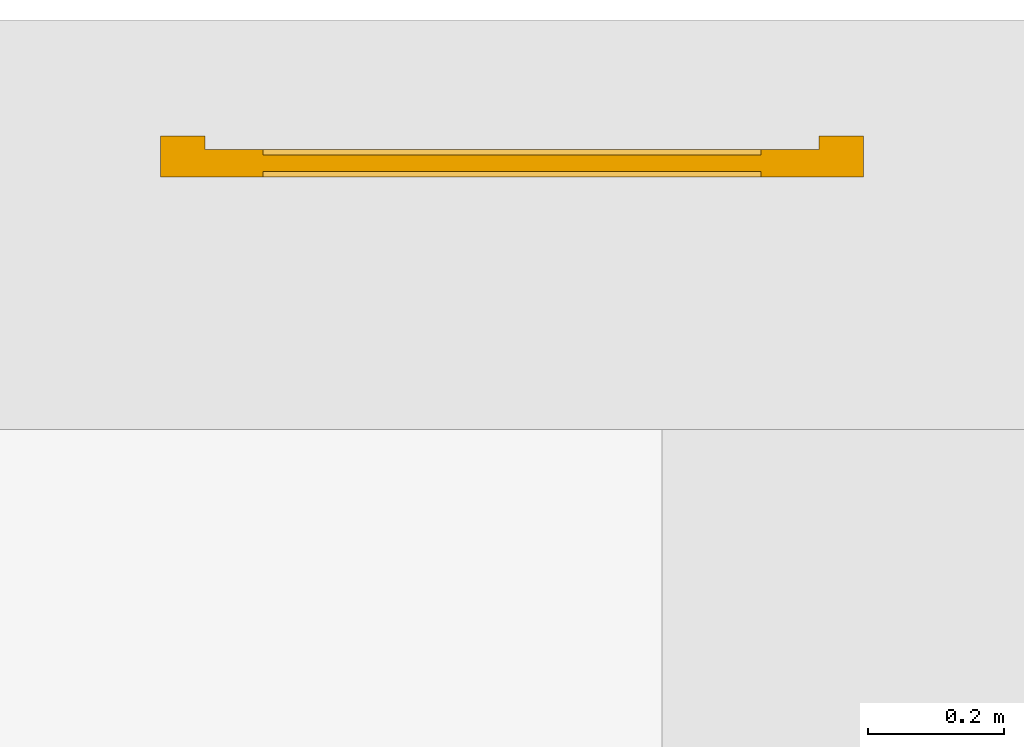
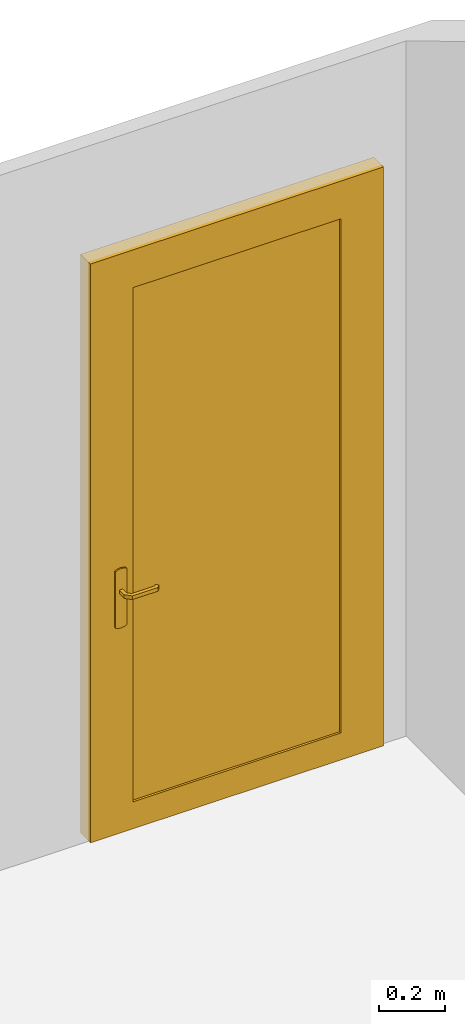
# One storey, part 3 of 6: 1 door.
"""IFC2X3 building model written with IfcOpenShell, lengths in millimetres."""

from ifc_helpers import new_model, entity, si_unit, converted_unit, direction, origin, origin_with_axes, place, context, project, spatial, faceted_brep, element, save


model = new_model("IFC2X3")

# Units and contexts
model_context = context("Model", 3, precision=1e-05, world=origin(), true_north=direction((0.0, 1.0, 0.0)))
ifc_project = project(units=[si_unit("LENGTHUNIT", "METRE", prefix="MILLI"), si_unit("AREAUNIT", "SQUARE_METRE"), si_unit("VOLUMEUNIT", "CUBIC_METRE"), converted_unit("PLANEANGLEUNIT", "DEGREE", entity("IfcPlaneAngleMeasure", 0.01745), si_unit("PLANEANGLEUNIT", "RADIAN"), dimensions=[0, 0, 0, 0, 0, 0, 0]), si_unit("SOLIDANGLEUNIT", "STERADIAN"), si_unit("MASSUNIT", "GRAM"), si_unit("TIMEUNIT", "SECOND"), si_unit("THERMODYNAMICTEMPERATUREUNIT", "DEGREE_CELSIUS"), si_unit("LUMINOUSINTENSITYUNIT", "LUMEN")], contexts=[model_context])

# Site, building, storey
site_placement = place(None, origin_with_axes())
site = spatial("IfcSite", under=ifc_project, at=site_placement, Name="Default Site", CompositionType="ELEMENT")
building_placement = place(site_placement, origin_with_axes())
building = spatial("IfcBuilding", under=site, at=building_placement, Name="Default Building", CompositionType="ELEMENT")
storey_placement = place(building_placement, origin_with_axes())
storey = spatial("IfcBuildingStorey", under=building, at=storey_placement, Name="soubassement", CompositionType="ELEMENT", Elevation=0.0)

# Door
door_placement = place(storey_placement, origin_with_axes())
element("IfcDoor", 1, at=door_placement, inside=storey, Name="IfcDoor - FR_PVC Panneau Plein:93 x 210 - (90)", context=model_context, shape_type="Brep", body=[
    faceted_brep([(2559.935072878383, -14171.58332305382, 2010.000002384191), (1829.935053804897, -14163.58332337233, 2010.000002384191), (2559.935072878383, -14163.58332337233, 2010.000002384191), (1829.935053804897, -14171.58332305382, 2010.000002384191), (2559.935072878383, -14171.58332305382, 99.99997615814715), (2559.935072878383, -14163.58332337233, 99.99997615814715), (1829.935053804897, -14171.58332305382, 99.99997615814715), (1829.935053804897, -14163.58332337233, 99.99997615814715), (1829.935053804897, -14195.58332302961, 2010.000002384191), (2559.935072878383, -14203.58332247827, 2010.000002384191), (1829.935053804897, -14203.58332247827, 2010.000002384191), (2559.935072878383, -14195.58332302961, 2010.000002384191), (1829.935053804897, -14195.58332302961, 99.99997615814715), (1829.935053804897, -14203.58332247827, 99.99997615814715), (2559.935072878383, -14195.58332302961, 99.99997615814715), (2559.935072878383, -14203.58332247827, 99.99997615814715), (1729.935059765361, -14203.58332247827, 2099.999976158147), (2659.935066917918, -14163.58332337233, 2099.999976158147), (1729.935059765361, -14163.58332337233, 2099.999976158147), (2659.935066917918, -14203.58332247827, 2099.999976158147), (2659.935066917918, -14163.58332337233, -4.768371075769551e-05), (2659.935066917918, -14203.58332247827, -4.768371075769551e-05), (1729.935059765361, -14163.58332337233, -4.768371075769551e-05), (1729.935059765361, -14203.58332247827, -4.768371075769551e-05), (1744.935075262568, -14143.58332381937, 2084.999990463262), (2644.935051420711, -14163.58332337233, 2084.999990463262), (1744.935075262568, -14163.58332337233, 2084.999990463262), (2644.935051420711, -14143.58332381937, 2084.999990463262), (1679.935077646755, -14143.58332381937, 2150.000047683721), (2709.935049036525, -14203.58332247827, 2150.000047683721), (2709.935049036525, -14143.58332381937, 2150.000047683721), (1679.935077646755, -14203.58332247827, 2150.000047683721), (2644.935051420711, -14163.58332337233, -4.768371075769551e-05), (2644.935051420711, -14143.58332381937, -4.768371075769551e-05), (2709.935049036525, -14143.58332381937, -4.768371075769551e-05), (2709.935049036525, -14203.58332247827, -4.768371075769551e-05), (1679.935077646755, -14203.58332247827, -4.768371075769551e-05), (1744.935075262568, -14163.58332337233, -4.768371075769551e-05), (1744.935075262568, -14143.58332381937, -4.768371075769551e-05), (1679.935077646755, -14143.58332381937, -4.768371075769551e-05), (1764.93506553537, -14208.58332344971, 770.000003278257), (1764.93506553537, -14203.58332263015, 979.9999967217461), (1764.93506553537, -14203.58332263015, 770.000003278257), (1764.93506553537, -14208.58332344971, 979.9999967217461), (1774.582300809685, -14203.58332263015, 983.9960187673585), (1774.582300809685, -14208.58332344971, 983.9960187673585), (1784.935065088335, -14203.58332263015, 985.3589832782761), (1784.935065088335, -14208.58332344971, 985.3589832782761), (1795.287825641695, -14208.58332344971, 983.9960187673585), (1795.287825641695, -14203.58332263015, 983.9960187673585), (1804.935062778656, -14203.58332263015, 979.9999967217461), (1804.935062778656, -14208.58332344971, 979.9999967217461), (1804.935062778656, -14203.58332263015, 770.000003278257), (1804.935062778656, -14208.58332344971, 770.000003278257), (1795.287825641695, -14203.58332263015, 766.0039812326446), (1795.287825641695, -14208.58332344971, 766.0039812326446), (1784.935065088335, -14203.58332263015, 764.6410167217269), (1784.935065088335, -14208.58332344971, 764.6410167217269), (1774.582300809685, -14208.58332344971, 766.0039812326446), (1774.582300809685, -14203.58332263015, 766.0039812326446), (1804.935062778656, -14163.58332352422, 979.9999967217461), (1804.935062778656, -14158.58332270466, 770.000003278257), (1804.935062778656, -14158.58332270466, 979.9999967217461), (1804.935062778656, -14163.58332352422, 770.000003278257), (1795.287825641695, -14158.58332270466, 766.0039812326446), (1795.287825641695, -14163.58332352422, 766.0039812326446), (1784.935065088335, -14158.58332270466, 764.6410167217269), (1784.935065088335, -14163.58332352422, 764.6410167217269), (1774.582300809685, -14163.58332352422, 766.0039812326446), (1774.582300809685, -14158.58332270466, 766.0039812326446), (1764.93506553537, -14158.58332270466, 770.000003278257), (1764.93506553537, -14163.58332352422, 770.000003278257), (1764.93506553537, -14158.58332270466, 979.9999967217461), (1764.93506553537, -14163.58332352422, 979.9999967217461), (1774.582300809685, -14158.58332270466, 983.9960187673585), (1774.582300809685, -14163.58332352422, 983.9960187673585), (1784.935065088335, -14158.58332270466, 985.3589832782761), (1784.935065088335, -14163.58332352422, 985.3589832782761), (1795.287825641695, -14163.58332352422, 983.9960187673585), (1795.287825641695, -14158.58332270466, 983.9960187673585), (1887.43898692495, -14254.61148487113, 907.0000015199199), (1896.267410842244, -14245.78305722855, 892.9999992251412), (1896.267410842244, -14245.78305722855, 907.0000015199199), (1887.43898692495, -14254.61148487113, 892.9999992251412), (1893.45687302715, -14242.97251941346, 892.219558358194), (1885.792609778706, -14250.63677893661, 892.219558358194), (1887.782130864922, -14237.29777352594, 892.9999992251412), (1884.114798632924, -14246.5861888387, 892.219558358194), (1882.46842148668, -14242.61148290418, 892.9999992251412), (1890.592668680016, -14240.10831506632, 892.219558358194), (1887.782130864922, -14237.29777352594, 907.0000015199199), (1882.46842148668, -14242.61148290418, 907.0000015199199), (1890.592668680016, -14240.10831506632, 907.7804423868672), (1884.114798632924, -14246.5861888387, 907.7804423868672), (1885.792609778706, -14250.63677893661, 907.7804423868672), (1893.45687302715, -14242.97251941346, 907.7804423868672), (1797.31227504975, -14254.61148487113, 892.9999992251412), (1837.242760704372, -14254.61148487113, 907.0000015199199), (1797.31227504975, -14254.61148487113, 907.0000015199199), (1847.508499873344, -14254.61148487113, 892.9999992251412), (1842.375629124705, -14248.76612441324, 892.1218849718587), (1800.636461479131, -14246.5861888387, 892.219558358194), (1798.958648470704, -14250.63677893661, 892.219558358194), (1842.375627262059, -14242.61148290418, 892.9999992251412), (1802.28283676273, -14242.61148290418, 892.9999992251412), (1802.28283676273, -14242.61148290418, 907.0000015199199), (1842.375629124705, -14248.76612441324, 907.8781157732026), (1842.375629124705, -14242.61148290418, 907.0000015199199), (1800.636461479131, -14246.5861888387, 907.7804423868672), (1798.958648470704, -14250.63677893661, 907.7804423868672), (1778.935064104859, -14236.23427392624, 907.0000015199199), (1778.935064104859, -14236.23427392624, 892.9999992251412), (1782.909766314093, -14234.58790050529, 892.219558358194), (1786.960360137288, -14232.91008563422, 892.219558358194), (1790.935062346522, -14231.26371221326, 892.9999992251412), (1790.935062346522, -14231.26371221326, 907.0000015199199), (1786.960360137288, -14232.91008563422, 907.7804423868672), (1782.909766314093, -14234.58790050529, 907.7804423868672), (1778.935064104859, -14208.58332344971, 907.0000015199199), (1778.935064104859, -14208.58332344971, 892.9999992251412), (1782.909766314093, -14208.58332344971, 892.219558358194), (1786.960360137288, -14208.58332344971, 892.219558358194), (1790.935062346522, -14208.58332344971, 892.9999992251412), (1790.935062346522, -14208.58332344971, 907.0000015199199), (1786.960360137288, -14208.58332344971, 907.7804423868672), (1782.909766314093, -14208.58332344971, 907.7804423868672), (1890.619811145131, -14127.11600603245, 892.219558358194), (1882.495563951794, -14124.61283819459, 892.9999992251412), (1884.141941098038, -14120.63813226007, 892.219558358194), (1887.809273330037, -14129.92654757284, 892.9999992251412), (1896.294553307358, -14121.44126387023, 892.9999992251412), (1885.819752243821, -14116.58754216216, 892.219558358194), (1887.466129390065, -14112.61283622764, 892.9999992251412), (1893.484015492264, -14124.25180168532, 892.219558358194), (1896.294553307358, -14121.44126387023, 907.0000015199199), (1887.466129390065, -14112.61283622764, 907.0000015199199), (1893.484015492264, -14124.25180168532, 907.7804423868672), (1885.819752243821, -14116.58754216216, 907.7804423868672), (1887.809273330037, -14129.92654757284, 907.0000015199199), (1884.141941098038, -14120.63813226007, 907.7804423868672), (1882.495563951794, -14124.61283819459, 907.0000015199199), (1890.619811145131, -14127.11600603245, 907.7804423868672), (1842.457955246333, -14118.45839785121, 892.1218831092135), (1842.45794313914, -14124.61283819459, 892.9999992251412), (1802.420344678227, -14124.61283819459, 892.9999992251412), (1800.773969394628, -14120.63813226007, 892.219558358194), (1799.0961563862, -14116.58754216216, 892.219558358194), (1837.380268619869, -14112.61283622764, 892.9999992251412), (1797.449782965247, -14112.61283622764, 892.9999992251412), (1797.449782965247, -14112.61283622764, 907.0000015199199), (1847.535640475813, -14112.61283622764, 907.0000015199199), (1842.457955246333, -14118.45839785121, 907.8781157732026), (1800.773969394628, -14120.63813226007, 907.7804423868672), (1799.0961563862, -14116.58754216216, 907.7804423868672), (1842.457955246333, -14124.61283819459, 907.0000015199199), (1802.420344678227, -14124.61283819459, 907.0000015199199), (1790.935062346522, -14136.09811680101, 892.9999992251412), (1786.960360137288, -14134.45174338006, 892.219558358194), (1782.909766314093, -14132.77393223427, 892.219558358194), (1778.935064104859, -14131.12755508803, 892.9999992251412), (1778.935064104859, -14131.12755508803, 907.0000015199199), (1782.909766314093, -14132.77393223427, 907.7804423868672), (1786.960360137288, -14134.45174338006, 907.7804423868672), (1790.935062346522, -14136.09811680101, 907.0000015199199), (1790.935062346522, -14158.58332270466, 892.9999992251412), (1786.960360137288, -14158.58332270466, 892.219558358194), (1782.909766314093, -14158.58332270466, 892.219558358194), (1778.935064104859, -14158.58332270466, 892.9999992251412), (1778.935064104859, -14158.58332270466, 907.0000015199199), (1782.909766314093, -14158.58332270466, 907.7804423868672), (1786.960360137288, -14158.58332270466, 907.7804423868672), (1790.935062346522, -14158.58332270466, 907.0000015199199)], [[[0, 1, 2]], [[0, 3, 1]], [[4, 2, 5]], [[4, 0, 2]], [[6, 5, 7]], [[6, 4, 5]], [[3, 7, 1]], [[3, 6, 7]], [[3, 4, 6]], [[3, 0, 4]], [[8, 9, 10]], [[8, 11, 9]], [[12, 10, 13]], [[12, 8, 10]], [[14, 13, 15]], [[14, 12, 13]], [[11, 15, 9]], [[11, 14, 15]], [[11, 12, 14]], [[11, 8, 12]], [[16, 17, 18]], [[16, 19, 17]], [[19, 20, 17]], [[19, 21, 20]], [[21, 22, 20]], [[21, 23, 22]], [[20, 5, 17]], [[20, 7, 5]], [[7, 22, 1]], [[22, 7, 20]], [[2, 17, 5]], [[1, 17, 2]], [[1, 18, 17]], [[18, 1, 22]], [[21, 15, 23]], [[21, 9, 15]], [[9, 19, 10]], [[19, 9, 21]], [[13, 23, 15]], [[10, 23, 13]], [[10, 16, 23]], [[16, 10, 19]], [[18, 19, 16]], [[18, 17, 19]], [[24, 25, 26]], [[24, 27, 25]], [[28, 29, 30]], [[28, 31, 29]], [[17, 21, 19]], [[17, 20, 21]], [[27, 32, 25]], [[27, 33, 32]], [[21, 34, 35]], [[20, 34, 21]], [[32, 34, 20]], [[34, 32, 33]], [[34, 29, 35]], [[34, 30, 29]], [[29, 19, 35]], [[29, 16, 19]], [[31, 16, 29]], [[31, 23, 16]], [[23, 31, 36]], [[35, 19, 21]], [[23, 18, 16]], [[23, 22, 18]], [[17, 25, 20]], [[17, 26, 25]], [[26, 22, 37]], [[26, 18, 22]], [[18, 26, 17]], [[20, 25, 32]], [[37, 24, 26]], [[37, 38, 24]], [[28, 24, 39]], [[28, 27, 24]], [[30, 27, 28]], [[30, 33, 27]], [[33, 30, 34]], [[39, 24, 38]], [[39, 31, 28]], [[39, 36, 31]], [[37, 39, 38]], [[22, 39, 37]], [[23, 39, 22]], [[39, 23, 36]], [[40, 41, 42]], [[40, 43, 41]], [[44, 43, 45]], [[44, 41, 43]], [[46, 45, 47]], [[46, 44, 45]], [[48, 46, 47]], [[48, 49, 46]], [[50, 48, 51]], [[50, 49, 48]], [[51, 52, 50]], [[51, 53, 52]], [[54, 53, 55]], [[54, 52, 53]], [[56, 55, 57]], [[56, 54, 55]], [[58, 56, 57]], [[58, 59, 56]], [[42, 58, 40]], [[42, 59, 58]], [[56, 52, 54]], [[59, 52, 56]], [[42, 52, 59]], [[42, 50, 52]], [[42, 49, 50]], [[42, 46, 49]], [[42, 44, 46]], [[44, 42, 41]], [[47, 51, 48]], [[45, 51, 47]], [[43, 51, 45]], [[43, 53, 51]], [[43, 55, 53]], [[43, 57, 55]], [[43, 58, 57]], [[58, 43, 40]], [[60, 61, 62]], [[60, 63, 61]], [[64, 63, 65]], [[64, 61, 63]], [[66, 65, 67]], [[66, 64, 65]], [[68, 66, 67]], [[68, 69, 66]], [[70, 68, 71]], [[70, 69, 68]], [[71, 72, 70]], [[71, 73, 72]], [[74, 73, 75]], [[74, 72, 73]], [[76, 75, 77]], [[76, 74, 75]], [[78, 76, 77]], [[78, 79, 76]], [[62, 78, 60]], [[62, 79, 78]], [[66, 61, 64]], [[69, 61, 66]], [[70, 61, 69]], [[70, 62, 61]], [[70, 79, 62]], [[70, 76, 79]], [[70, 74, 76]], [[74, 70, 72]], [[77, 60, 78]], [[75, 60, 77]], [[73, 60, 75]], [[73, 63, 60]], [[73, 65, 63]], [[73, 67, 65]], [[73, 68, 67]], [[68, 73, 71]], [[80, 81, 82]], [[80, 83, 81]], [[84, 83, 85]], [[84, 81, 83]], [[86, 87, 88]], [[86, 89, 87]], [[88, 90, 86]], [[88, 91, 90]], [[92, 91, 93]], [[92, 90, 91]], [[82, 94, 80]], [[82, 95, 94]], [[81, 95, 82]], [[84, 95, 81]], [[84, 92, 95]], [[89, 92, 84]], [[89, 90, 92]], [[90, 89, 86]], [[80, 96, 83]], [[97, 96, 80]], [[96, 97, 98]], [[99, 100, 85]], [[101, 100, 102]], [[88, 87, 103]], [[103, 101, 104]], [[87, 85, 100]], [[100, 103, 87]], [[99, 102, 100]], [[96, 102, 99]], [[85, 83, 99]], [[101, 103, 100]], [[88, 105, 91]], [[103, 105, 88]], [[105, 103, 104]], [[93, 106, 94]], [[107, 93, 91]], [[105, 108, 107]], [[93, 107, 106]], [[108, 109, 106]], [[106, 107, 108]], [[80, 94, 97]], [[109, 98, 97]], [[106, 97, 94]], [[97, 106, 109]], [[110, 96, 98]], [[110, 111, 96]], [[102, 111, 112]], [[102, 96, 111]], [[104, 113, 114]], [[104, 101, 113]], [[114, 105, 104]], [[114, 115, 105]], [[108, 115, 116]], [[108, 105, 115]], [[98, 117, 110]], [[98, 109, 117]], [[118, 111, 110]], [[118, 119, 111]], [[112, 119, 120]], [[112, 111, 119]], [[89, 85, 87]], [[89, 84, 85]], [[102, 113, 101]], [[112, 113, 102]], [[112, 121, 113]], [[121, 112, 120]], [[114, 121, 122]], [[114, 113, 121]], [[122, 115, 114]], [[122, 123, 115]], [[116, 123, 124]], [[116, 115, 123]], [[95, 93, 94]], [[95, 92, 93]], [[116, 109, 108]], [[116, 117, 109]], [[124, 117, 116]], [[117, 124, 125]], [[110, 125, 118]], [[110, 117, 125]], [[121, 123, 122]], [[121, 124, 123]], [[120, 124, 121]], [[120, 125, 124]], [[119, 125, 120]], [[125, 119, 118]], [[126, 127, 128]], [[126, 129, 127]], [[130, 131, 132]], [[130, 133, 131]], [[132, 134, 130]], [[132, 135, 134]], [[136, 135, 137]], [[136, 134, 135]], [[138, 139, 140]], [[138, 141, 139]], [[140, 129, 138]], [[140, 127, 129]], [[134, 133, 130]], [[136, 133, 134]], [[136, 126, 133]], [[141, 126, 136]], [[141, 129, 126]], [[129, 141, 138]], [[128, 142, 131]], [[143, 128, 127]], [[144, 145, 143]], [[128, 143, 142]], [[145, 146, 142]], [[142, 143, 145]], [[132, 131, 147]], [[146, 148, 147]], [[142, 147, 131]], [[147, 142, 146]], [[132, 149, 135]], [[147, 149, 132]], [[149, 147, 148]], [[150, 151, 137]], [[152, 151, 153]], [[140, 139, 154]], [[154, 152, 155]], [[139, 137, 151]], [[151, 154, 139]], [[150, 153, 151]], [[149, 153, 150]], [[137, 135, 150]], [[152, 154, 151]], [[154, 127, 140]], [[154, 143, 127]], [[154, 144, 143]], [[144, 154, 155]], [[145, 156, 157]], [[145, 144, 156]], [[148, 158, 159]], [[148, 146, 158]], [[159, 149, 148]], [[159, 160, 149]], [[153, 160, 161]], [[153, 149, 160]], [[155, 162, 163]], [[155, 152, 162]], [[163, 144, 155]], [[163, 156, 144]], [[157, 164, 165]], [[157, 156, 164]], [[133, 128, 131]], [[133, 126, 128]], [[157, 146, 145]], [[157, 158, 146]], [[165, 158, 157]], [[158, 165, 166]], [[159, 166, 167]], [[159, 158, 166]], [[167, 160, 159]], [[167, 168, 160]], [[161, 168, 169]], [[161, 160, 168]], [[141, 137, 139]], [[141, 136, 137]], [[153, 162, 152]], [[161, 162, 153]], [[161, 170, 162]], [[170, 161, 169]], [[163, 170, 171]], [[163, 162, 170]], [[171, 156, 163]], [[171, 164, 156]], [[170, 164, 171]], [[170, 165, 164]], [[169, 165, 170]], [[169, 166, 165]], [[168, 166, 169]], [[166, 168, 167]]]),
])

save(model, "model.ifc")
